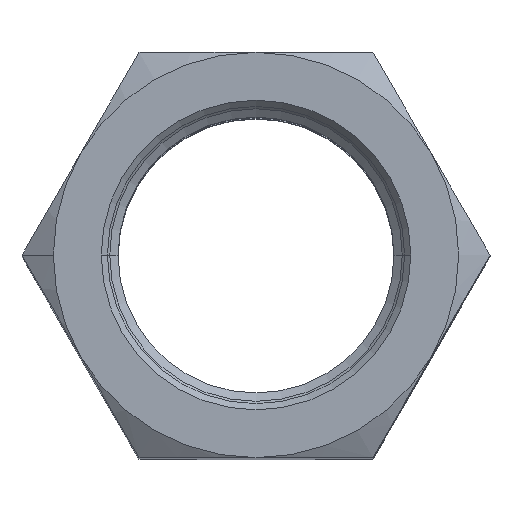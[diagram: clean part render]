
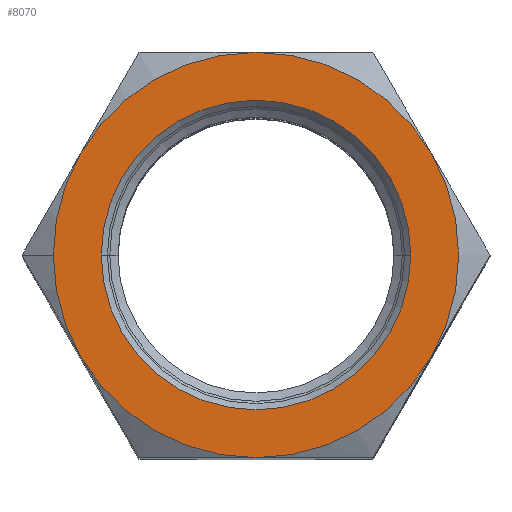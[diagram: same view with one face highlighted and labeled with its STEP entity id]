
A CAD part, top view. The second image highlights one B-rep face of the part: STEP entity #8070.
In plain terms, the highlighted planar face has unit normal (0, 0, 1).
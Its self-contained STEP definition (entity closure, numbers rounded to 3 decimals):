
#192 = AXIS2_PLACEMENT_3D ( 'NONE', #15280, #15304, #15343 ) ;
#246 = VERTEX_POINT ( 'NONE', #13075 ) ;
#388 = CARTESIAN_POINT ( 'NONE',  ( -15.588, 9., 49.75 ) ) ;
#432 = CIRCLE ( 'NONE', #8205, 18. ) ;
#445 = DIRECTION ( 'NONE',  ( 1., 0., 0. ) ) ;
#547 = EDGE_CURVE ( 'NONE', #1731, #17071, #17320, .T. ) ;
#560 = AXIS2_PLACEMENT_3D ( 'NONE', #16558, #8486, #445 ) ;
#794 = AXIS2_PLACEMENT_3D ( 'NONE', #6502, #15931, #7861 ) ;
#804 = CIRCLE ( 'NONE', #192, 18. ) ;
#823 = VERTEX_POINT ( 'NONE', #3819 ) ;
#1105 = DIRECTION ( 'NONE',  ( 1., 0., 0. ) ) ;
#1140 = DIRECTION ( 'NONE',  ( -1., 0., 0. ) ) ;
#1333 = EDGE_CURVE ( 'NONE', #12921, #16944, #804, .T. ) ;
#1440 = AXIS2_PLACEMENT_3D ( 'NONE', #2149, #2184, #2202 ) ;
#1731 = VERTEX_POINT ( 'NONE', #11755 ) ;
#2149 = CARTESIAN_POINT ( 'NONE',  ( 0., 0., 49.75 ) ) ;
#2184 = DIRECTION ( 'NONE',  ( 0., 0., -1. ) ) ;
#2202 = DIRECTION ( 'NONE',  ( 1., 0., 0. ) ) ;
#2334 = CARTESIAN_POINT ( 'NONE',  ( 0., 0., 49.75 ) ) ;
#3035 = FACE_BOUND ( 'NONE', #16160, .T. ) ;
#3401 = EDGE_LOOP ( 'NONE', ( #6957, #14537, #5275, #17325, #13206, #8384, #7991 ) ) ;
#3713 = DIRECTION ( 'NONE',  ( 1., 0., 0. ) ) ;
#3819 = CARTESIAN_POINT ( 'NONE',  ( -18., 0., 49.75 ) ) ;
#4059 = EDGE_CURVE ( 'NONE', #246, #7951, #11465, .T. ) ;
#4349 = DIRECTION ( 'NONE',  ( 0., 0., -1. ) ) ;
#4560 = CARTESIAN_POINT ( 'NONE',  ( 0., 0., 49.75 ) ) ;
#5275 = ORIENTED_EDGE ( 'NONE', *, *, #1333, .F. ) ;
#5934 = CIRCLE ( 'NONE', #8883, 18. ) ;
#5975 = CIRCLE ( 'NONE', #794, 18. ) ;
#6338 = DIRECTION ( 'NONE',  ( 0., 0., -1. ) ) ;
#6502 = CARTESIAN_POINT ( 'NONE',  ( 0., 0., 49.75 ) ) ;
#6957 = ORIENTED_EDGE ( 'NONE', *, *, #4059, .F. ) ;
#7311 = CARTESIAN_POINT ( 'NONE',  ( 0., 18., 49.75 ) ) ;
#7669 = DIRECTION ( 'NONE',  ( 1., 0., 0. ) ) ;
#7861 = DIRECTION ( 'NONE',  ( 1., 0., 0. ) ) ;
#7951 = VERTEX_POINT ( 'NONE', #9358 ) ;
#7991 = ORIENTED_EDGE ( 'NONE', *, *, #15900, .F. ) ;
#8070 = ADVANCED_FACE ( 'NONE', ( #3035, #9815 ), #11188, .T. ) ;
#8205 = AXIS2_PLACEMENT_3D ( 'NONE', #17291, #9222, #1140 ) ;
#8347 = EDGE_CURVE ( 'NONE', #16944, #246, #5975, .T. ) ;
#8384 = ORIENTED_EDGE ( 'NONE', *, *, #13312, .F. ) ;
#8486 = DIRECTION ( 'NONE',  ( 0., 0., 1. ) ) ;
#8809 = CIRCLE ( 'NONE', #14237, 18. ) ;
#8883 = AXIS2_PLACEMENT_3D ( 'NONE', #17251, #9182, #1105 ) ;
#9182 = DIRECTION ( 'NONE',  ( 0., 0., -1. ) ) ;
#9222 = DIRECTION ( 'NONE',  ( 0., 0., -1. ) ) ;
#9358 = CARTESIAN_POINT ( 'NONE',  ( 0., -18., 49.75 ) ) ;
#9483 = ORIENTED_EDGE ( 'NONE', *, *, #547, .T. ) ;
#9815 = FACE_OUTER_BOUND ( 'NONE', #3401, .T. ) ;
#10499 = CIRCLE ( 'NONE', #15918, 13.75 ) ;
#11188 = PLANE ( 'NONE',  #560 ) ;
#11465 = CIRCLE ( 'NONE', #1440, 18. ) ;
#11755 = CARTESIAN_POINT ( 'NONE',  ( 13.75, 0., 49.75 ) ) ;
#11819 = DIRECTION ( 'NONE',  ( 0., 0., -1. ) ) ;
#12323 = CARTESIAN_POINT ( 'NONE',  ( -15.588, -9., 49.75 ) ) ;
#12469 = CARTESIAN_POINT ( 'NONE',  ( 0., 0., 49.75 ) ) ;
#12685 = DIRECTION ( 'NONE',  ( 0., 0., -1. ) ) ;
#12921 = VERTEX_POINT ( 'NONE', #7311 ) ;
#13075 = CARTESIAN_POINT ( 'NONE',  ( 15.588, -9., 49.75 ) ) ;
#13206 = ORIENTED_EDGE ( 'NONE', *, *, #15414, .F. ) ;
#13312 = EDGE_CURVE ( 'NONE', #16827, #823, #5934, .T. ) ;
#13681 = VERTEX_POINT ( 'NONE', #388 ) ;
#13810 = DIRECTION ( 'NONE',  ( 1., 0., 0. ) ) ;
#14237 = AXIS2_PLACEMENT_3D ( 'NONE', #12469, #4349, #13810 ) ;
#14429 = CARTESIAN_POINT ( 'NONE',  ( 0., 0., 49.75 ) ) ;
#14433 = EDGE_CURVE ( 'NONE', #13681, #12921, #432, .T. ) ;
#14537 = ORIENTED_EDGE ( 'NONE', *, *, #8347, .F. ) ;
#14603 = ORIENTED_EDGE ( 'NONE', *, *, #16598, .T. ) ;
#15280 = CARTESIAN_POINT ( 'NONE',  ( 0., 0., 49.75 ) ) ;
#15304 = DIRECTION ( 'NONE',  ( 0., 0., -1. ) ) ;
#15343 = DIRECTION ( 'NONE',  ( 1., 0., 0. ) ) ;
#15414 = EDGE_CURVE ( 'NONE', #823, #13681, #8809, .T. ) ;
#15516 = AXIS2_PLACEMENT_3D ( 'NONE', #4560, #12685, #7669 ) ;
#15765 = DIRECTION ( 'NONE',  ( 1., 0., 0. ) ) ;
#15900 = EDGE_CURVE ( 'NONE', #7951, #16827, #17248, .T. ) ;
#15918 = AXIS2_PLACEMENT_3D ( 'NONE', #14429, #6338, #15765 ) ;
#15931 = DIRECTION ( 'NONE',  ( 0., 0., -1. ) ) ;
#16160 = EDGE_LOOP ( 'NONE', ( #9483, #14603 ) ) ;
#16552 = CARTESIAN_POINT ( 'NONE',  ( 15.588, 9., 49.75 ) ) ;
#16555 = AXIS2_PLACEMENT_3D ( 'NONE', #2334, #11819, #3713 ) ;
#16558 = CARTESIAN_POINT ( 'NONE',  ( -20.785, 0., 49.75 ) ) ;
#16598 = EDGE_CURVE ( 'NONE', #17071, #1731, #10499, .T. ) ;
#16680 = CARTESIAN_POINT ( 'NONE',  ( -13.75, 0., 49.75 ) ) ;
#16827 = VERTEX_POINT ( 'NONE', #12323 ) ;
#16944 = VERTEX_POINT ( 'NONE', #16552 ) ;
#17071 = VERTEX_POINT ( 'NONE', #16680 ) ;
#17248 = CIRCLE ( 'NONE', #16555, 18. ) ;
#17251 = CARTESIAN_POINT ( 'NONE',  ( 0., 0., 49.75 ) ) ;
#17291 = CARTESIAN_POINT ( 'NONE',  ( 0., 0., 49.75 ) ) ;
#17320 = CIRCLE ( 'NONE', #15516, 13.75 ) ;
#17325 = ORIENTED_EDGE ( 'NONE', *, *, #14433, .F. ) ;
